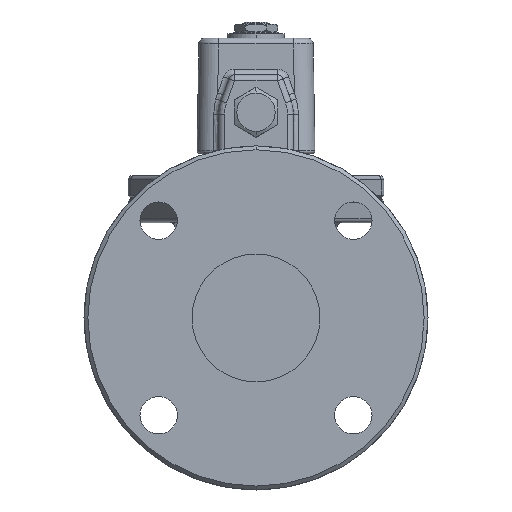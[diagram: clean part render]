
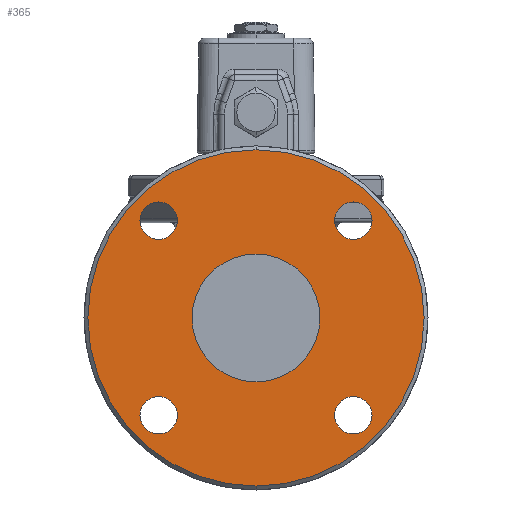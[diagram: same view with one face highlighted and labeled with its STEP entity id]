
A CAD part, left-side view. The second image highlights one B-rep face of the part: STEP entity #365.
In plain terms, the highlighted planar face has unit normal (-1, 0, 0).
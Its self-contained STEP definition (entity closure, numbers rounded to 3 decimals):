
#365=ADVANCED_FACE('',(#2160,#2161,#2162,#2163,#2164,#2165),#2159,.F.);
#2159=PLANE('',#8409);
#2160=FACE_OUTER_BOUND('',#8410,.T.);
#2161=FACE_BOUND('',#8411,.T.);
#2162=FACE_BOUND('',#8412,.T.);
#2163=FACE_BOUND('',#8413,.T.);
#2164=FACE_BOUND('',#8414,.T.);
#2165=FACE_BOUND('',#8415,.T.);
#8406=CARTESIAN_POINT('',(-99.,-158.09,181.));
#8407=DIRECTION('',(1.,0.,0.));
#8408=DIRECTION('',(0.,0.,-1.));
#8409=AXIS2_PLACEMENT_3D('',#8406,#8407,#8408);
#8410=EDGE_LOOP('',(#13319,#13320));
#8411=EDGE_LOOP('',(#13321,#13322));
#8412=EDGE_LOOP('',(#13323,#13324));
#8413=EDGE_LOOP('',(#13325,#13326));
#8414=EDGE_LOOP('',(#13327,#13328));
#8415=EDGE_LOOP('',(#13329,#13330));
#13319=ORIENTED_EDGE('',*,*,#15397,.T.);
#13320=ORIENTED_EDGE('',*,*,#15398,.T.);
#13321=ORIENTED_EDGE('',*,*,#15399,.T.);
#13322=ORIENTED_EDGE('',*,*,#15400,.T.);
#13323=ORIENTED_EDGE('',*,*,#15401,.T.);
#13324=ORIENTED_EDGE('',*,*,#15402,.T.);
#13325=ORIENTED_EDGE('',*,*,#15403,.T.);
#13326=ORIENTED_EDGE('',*,*,#15404,.T.);
#13327=ORIENTED_EDGE('',*,*,#15405,.T.);
#13328=ORIENTED_EDGE('',*,*,#15406,.T.);
#13329=ORIENTED_EDGE('',*,*,#15407,.T.);
#13330=ORIENTED_EDGE('',*,*,#15408,.T.);
#15397=EDGE_CURVE('',#19300,#19301,#19302,.T.);
#15398=EDGE_CURVE('',#19301,#19300,#19308,.T.);
#15399=EDGE_CURVE('',#19314,#19315,#19316,.T.);
#15400=EDGE_CURVE('',#19315,#19314,#19322,.T.);
#15401=EDGE_CURVE('',#19328,#19329,#19330,.T.);
#15402=EDGE_CURVE('',#19329,#19328,#19336,.T.);
#15403=EDGE_CURVE('',#19342,#19343,#19344,.T.);
#15404=EDGE_CURVE('',#19343,#19342,#19350,.T.);
#15405=EDGE_CURVE('',#19356,#19357,#19358,.T.);
#15406=EDGE_CURVE('',#19357,#19356,#19364,.T.);
#15407=EDGE_CURVE('',#19370,#19371,#19372,.T.);
#15408=EDGE_CURVE('',#19371,#19370,#19378,.T.);
#19300=VERTEX_POINT('',#27320);
#19301=VERTEX_POINT('',#27321);
#19302=CIRCLE('',#27325,85.5);
#19308=CIRCLE('',#27329,85.5);
#19314=VERTEX_POINT('',#27330);
#19315=VERTEX_POINT('',#27331);
#19316=CIRCLE('',#27335,32.5);
#19322=CIRCLE('',#27339,32.5);
#19328=VERTEX_POINT('',#27340);
#19329=VERTEX_POINT('',#27341);
#19330=CIRCLE('',#27345,9.5);
#19336=CIRCLE('',#27349,9.5);
#19342=VERTEX_POINT('',#27350);
#19343=VERTEX_POINT('',#27351);
#19344=CIRCLE('',#27355,9.5);
#19350=CIRCLE('',#27359,9.5);
#19356=VERTEX_POINT('',#27360);
#19357=VERTEX_POINT('',#27361);
#19358=CIRCLE('',#27365,9.5);
#19364=CIRCLE('',#27369,9.5);
#19370=VERTEX_POINT('',#27370);
#19371=VERTEX_POINT('',#27371);
#19372=CIRCLE('',#27375,9.5);
#19378=CIRCLE('',#27379,9.5);
#27320=CARTESIAN_POINT('',(-99.,0.,-85.5));
#27321=CARTESIAN_POINT('',(-99.,0.,85.5));
#27322=CARTESIAN_POINT('',(-99.,0.,0.));
#27323=DIRECTION('',(-1.,0.,0.));
#27324=DIRECTION('',(0.,0.,-1.));
#27325=AXIS2_PLACEMENT_3D('',#27322,#27323,#27324);
#27326=CARTESIAN_POINT('',(-99.,0.,0.));
#27327=DIRECTION('',(-1.,0.,0.));
#27328=DIRECTION('',(0.,0.,-1.));
#27329=AXIS2_PLACEMENT_3D('',#27326,#27327,#27328);
#27330=CARTESIAN_POINT('',(-99.,0.,32.5));
#27331=CARTESIAN_POINT('',(-99.,0.,-32.5));
#27332=CARTESIAN_POINT('',(-99.,0.,0.));
#27333=DIRECTION('',(1.,0.,0.));
#27334=DIRECTION('',(0.,0.,1.));
#27335=AXIS2_PLACEMENT_3D('',#27332,#27333,#27334);
#27336=CARTESIAN_POINT('',(-99.,0.,0.));
#27337=DIRECTION('',(1.,0.,0.));
#27338=DIRECTION('',(0.,0.,1.));
#27339=AXIS2_PLACEMENT_3D('',#27336,#27337,#27338);
#27340=CARTESIAN_POINT('',(-99.,-49.497,-39.997));
#27341=CARTESIAN_POINT('',(-99.,-49.497,-58.997));
#27342=CARTESIAN_POINT('',(-99.,-49.497,-49.497));
#27343=DIRECTION('',(1.,0.,0.));
#27344=DIRECTION('',(0.,0.,1.));
#27345=AXIS2_PLACEMENT_3D('',#27342,#27343,#27344);
#27346=CARTESIAN_POINT('',(-99.,-49.497,-49.497));
#27347=DIRECTION('',(1.,0.,0.));
#27348=DIRECTION('',(0.,0.,1.));
#27349=AXIS2_PLACEMENT_3D('',#27346,#27347,#27348);
#27350=CARTESIAN_POINT('',(-99.,49.497,58.997));
#27351=CARTESIAN_POINT('',(-99.,49.497,39.997));
#27352=CARTESIAN_POINT('',(-99.,49.497,49.497));
#27353=DIRECTION('',(1.,0.,0.));
#27354=DIRECTION('',(0.,0.,1.));
#27355=AXIS2_PLACEMENT_3D('',#27352,#27353,#27354);
#27356=CARTESIAN_POINT('',(-99.,49.497,49.497));
#27357=DIRECTION('',(1.,0.,0.));
#27358=DIRECTION('',(0.,0.,1.));
#27359=AXIS2_PLACEMENT_3D('',#27356,#27357,#27358);
#27360=CARTESIAN_POINT('',(-99.,-49.497,58.997));
#27361=CARTESIAN_POINT('',(-99.,-49.497,39.997));
#27362=CARTESIAN_POINT('',(-99.,-49.497,49.497));
#27363=DIRECTION('',(1.,0.,0.));
#27364=DIRECTION('',(0.,0.,1.));
#27365=AXIS2_PLACEMENT_3D('',#27362,#27363,#27364);
#27366=CARTESIAN_POINT('',(-99.,-49.497,49.497));
#27367=DIRECTION('',(1.,0.,0.));
#27368=DIRECTION('',(0.,0.,1.));
#27369=AXIS2_PLACEMENT_3D('',#27366,#27367,#27368);
#27370=CARTESIAN_POINT('',(-99.,49.497,-39.997));
#27371=CARTESIAN_POINT('',(-99.,49.497,-58.997));
#27372=CARTESIAN_POINT('',(-99.,49.497,-49.497));
#27373=DIRECTION('',(1.,0.,0.));
#27374=DIRECTION('',(0.,0.,1.));
#27375=AXIS2_PLACEMENT_3D('',#27372,#27373,#27374);
#27376=CARTESIAN_POINT('',(-99.,49.497,-49.497));
#27377=DIRECTION('',(1.,0.,0.));
#27378=DIRECTION('',(0.,0.,1.));
#27379=AXIS2_PLACEMENT_3D('',#27376,#27377,#27378);
